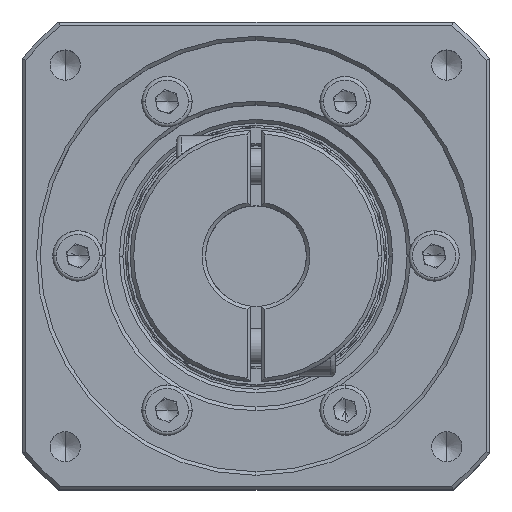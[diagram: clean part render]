
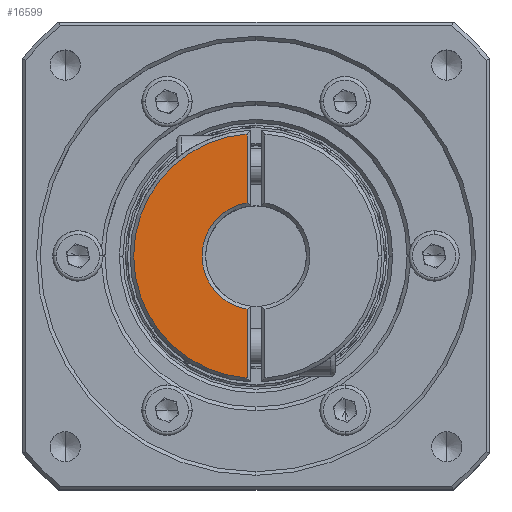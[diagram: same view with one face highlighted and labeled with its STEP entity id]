
A CAD part, top view. The second image highlights one B-rep face of the part: STEP entity #16599.
In plain terms, the highlighted planar face has unit normal (0, 0, 1).
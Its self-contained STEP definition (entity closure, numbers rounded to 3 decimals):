
#2770 = CARTESIAN_POINT ( 'NONE',  ( -27.62, -3.054, 185.502 ) ) ;
#3284 = FACE_OUTER_BOUND ( 'NONE', #68525, .T. ) ;
#4269 = ORIENTED_EDGE ( 'NONE', *, *, #11941, .T. ) ;
#5603 = CARTESIAN_POINT ( 'NONE',  ( -26.37, 4.341, 185.502 ) ) ;
#5784 = VECTOR ( 'NONE', #112202, 1000. ) ;
#8845 = DIRECTION ( 'NONE',  ( 0., 1., 0. ) ) ;
#11941 = EDGE_CURVE ( 'NONE', #38411, #64534, #30143, .T. ) ;
#14841 = DIRECTION ( 'NONE',  ( 1., 0., 0. ) ) ;
#16599 = ADVANCED_FACE ( 'NONE', ( #3284 ), #45169, .F. ) ;
#20238 = EDGE_CURVE ( 'NONE', #64534, #22075, #22480, .T. ) ;
#21584 = EDGE_CURVE ( 'NONE', #22075, #69402, #36633, .T. ) ;
#22075 = VERTEX_POINT ( 'NONE', #103755 ) ;
#22480 = CIRCLE ( 'NONE', #89141, 7.5 ) ;
#27522 = DIRECTION ( 'NONE',  ( 0., 0., -1. ) ) ;
#30143 = LINE ( 'NONE', #102993, #5784 ) ;
#36633 = LINE ( 'NONE', #78173, #82433 ) ;
#38411 = VERTEX_POINT ( 'NONE', #52693 ) ;
#45169 = PLANE ( 'NONE',  #94099 ) ;
#52693 = CARTESIAN_POINT ( 'NONE',  ( -27.62, -12.613, 185.502 ) ) ;
#60017 = AXIS2_PLACEMENT_3D ( 'NONE', #5603, #69629, #14841 ) ;
#63032 = EDGE_CURVE ( 'NONE', #38411, #69402, #92414, .T. ) ;
#63678 = DIRECTION ( 'NONE',  ( 0., 0., -1. ) ) ;
#64534 = VERTEX_POINT ( 'NONE', #2770 ) ;
#65560 = ORIENTED_EDGE ( 'NONE', *, *, #21584, .T. ) ;
#68525 = EDGE_LOOP ( 'NONE', ( #68758, #65560, #103273, #4269 ) ) ;
#68758 = ORIENTED_EDGE ( 'NONE', *, *, #20238, .T. ) ;
#69402 = VERTEX_POINT ( 'NONE', #80020 ) ;
#69629 = DIRECTION ( 'NONE',  ( 0., 0., -1. ) ) ;
#78173 = CARTESIAN_POINT ( 'NONE',  ( -27.62, -14.845, 185.502 ) ) ;
#80020 = CARTESIAN_POINT ( 'NONE',  ( -27.62, 21.295, 185.502 ) ) ;
#82341 = CARTESIAN_POINT ( 'NONE',  ( -26.37, 21.841, 185.502 ) ) ;
#82433 = VECTOR ( 'NONE', #105786, 1000. ) ;
#89141 = AXIS2_PLACEMENT_3D ( 'NONE', #118517, #63678, #8845 ) ;
#91561 = DIRECTION ( 'NONE',  ( 1., 0., 0. ) ) ;
#92414 = CIRCLE ( 'NONE', #60017, 17. ) ;
#94099 = AXIS2_PLACEMENT_3D ( 'NONE', #82341, #27522, #91561 ) ;
#102993 = CARTESIAN_POINT ( 'NONE',  ( -27.62, -14.845, 185.502 ) ) ;
#103273 = ORIENTED_EDGE ( 'NONE', *, *, #63032, .F. ) ;
#103755 = CARTESIAN_POINT ( 'NONE',  ( -27.62, 11.736, 185.502 ) ) ;
#105786 = DIRECTION ( 'NONE',  ( 0., 1., 0. ) ) ;
#112202 = DIRECTION ( 'NONE',  ( 0., 1., 0. ) ) ;
#118517 = CARTESIAN_POINT ( 'NONE',  ( -26.37, 4.341, 185.502 ) ) ;
